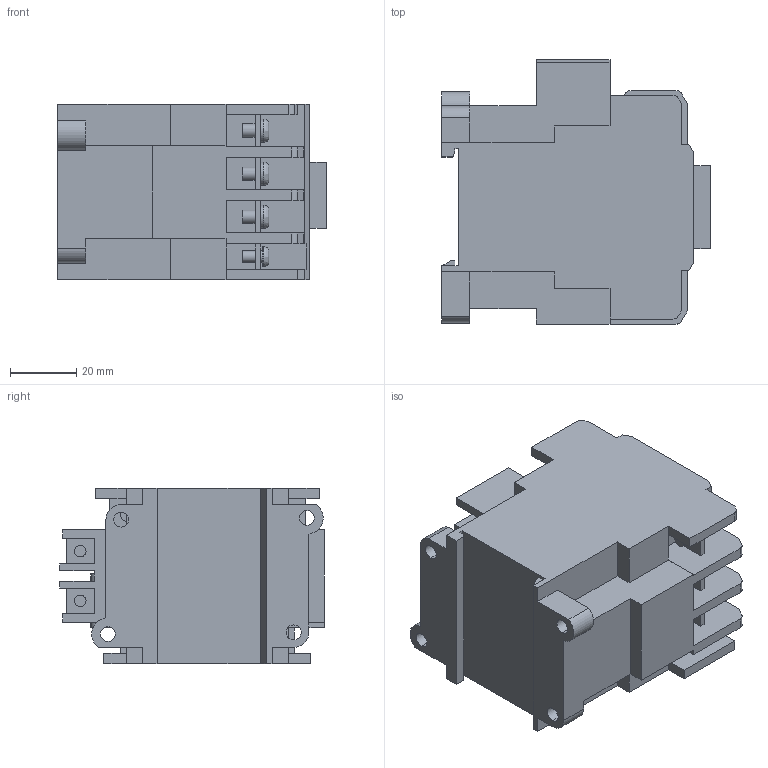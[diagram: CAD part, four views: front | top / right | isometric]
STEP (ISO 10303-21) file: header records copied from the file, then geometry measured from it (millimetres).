
FILE_DESCRIPTION (( 'STEP AP214' ), '1' );
FILE_NAME ('SC-4-0.STEP', '2013-10-30T06:18:00', ( '川崎工場' ), ( '富士電機システムズ株式会社' ), 'SwSTEP 2.0', 'SolidWorks 2005204', '' );
FILE_SCHEMA (( 'AUTOMOTIVE_DESIGN' ));
Length unit declared in the file: millimetre
Products named in the file (22): 7_蹬怮椔; 15_蹬怮椔; 18_蹬怮椔; SC-4-0; 6_蹬怮椔; 2_蹬怮椔; 17_蹬怮椔; 21_蹬怮椔; 3_蹬怮椔; 14_蹬怮椔; 5_蹬怮椔; 13_蹬怮椔; 20_蹬怮椔; 16_蹬怮椔; 12_蹬怮椔; 1_蹬怮椔; 19_蹬怮椔; 4_蹬怮椔; 8_蹬怮椔; 11_蹬怮椔; 9_蹬怮椔; 10_蹬怮椔
Assembly tree (21 placements, depth 2):
  SC-4-0
    18_蹬怮椔
    3_蹬怮椔
    17_蹬怮椔
    4_蹬怮椔
    14_蹬怮椔
    21_蹬怮椔
    11_蹬怮椔
    10_蹬怮椔
    5_蹬怮椔
    7_蹬怮椔
    9_蹬怮椔
    16_蹬怮椔
    6_蹬怮椔
    12_蹬怮椔
    2_蹬怮椔
    15_蹬怮椔
    20_蹬怮椔
    8_蹬怮椔
    1_蹬怮椔
    19_蹬怮椔
    13_蹬怮椔
Bounding box: 81 x 79.7 x 53 mm (x, y, z)
Volume: 207898 mm3; surface area: 37895.8 mm2
Topology: 21 solids, 21 shells, 322 faces, 786 edges, 517 vertices
Faces by surface type: plane 219, cylinder 83, bspline 20
Entity records: 13798 total; most frequent: CARTESIAN_POINT 2039, DIRECTION 1594, ORIENTED_EDGE 1572, EDGE_CURVE 786, VECTOR 570, LINE 570, VERTEX_POINT 517, AXIS2_PLACEMENT_3D 512
